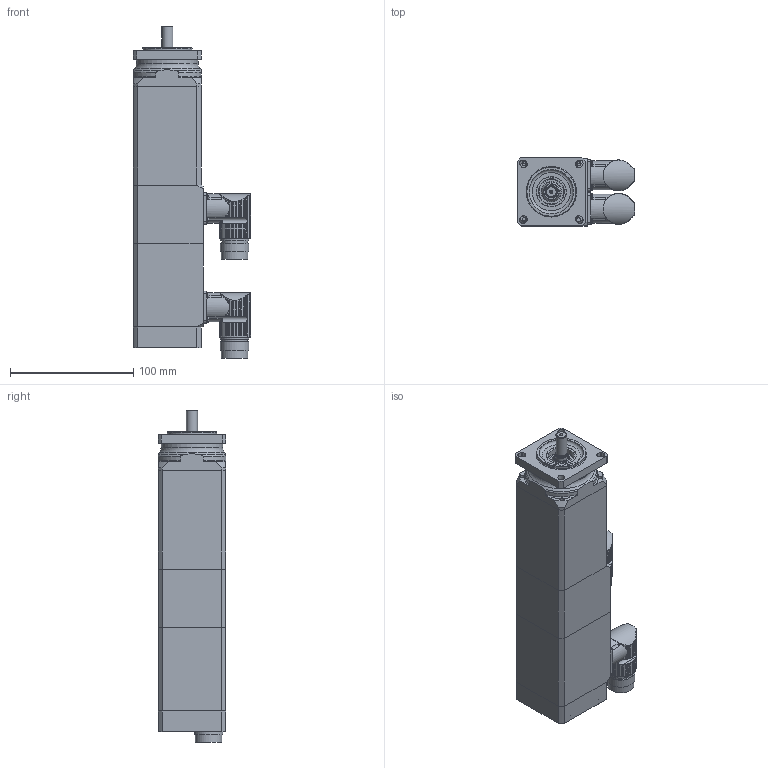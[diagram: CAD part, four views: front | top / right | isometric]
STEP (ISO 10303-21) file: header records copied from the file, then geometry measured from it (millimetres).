
FILE_DESCRIPTION(/* description */ (''),/* implementation_level */ '2;1');
FILE_NAME(/* name */ 'KSY 168 D-MD-Rx',/* time_stamp */ '2006-12-08T14:32:59+01:00',/* author */ (''),/* organization */ (''),/* preprocessor_version */ 'ST-DEVELOPER v8',/* originating_system */ 'UNIGRAPHICS SOLUTIONS - UNIGRAPHICS 18.0',/* authorisation */ '');
FILE_SCHEMA (('AUTOMOTIVE_DESIGN { 1 2 10303 214 0 1 1 1 }'));
Length unit declared in the file: millimetre
Products named in the file (12): Gehaeuse_SY1_80_0; din912-m3x10_A; 063326_0; 014258_0; 064270_0; 111003_2; Rotor_SY1_0; 111001_0; iso1580-m2.5x6_A; 014250_0; DIN3760_org_A10x24x7_0; KSY164D-MD-RC_0
Assembly tree (21 placements, depth 2):
  KSY164D-MD-RC_0
    DIN3760_org_A10x24x7_0
    014250_0
    iso1580-m2.5x6_A  x8
    111001_0
    Rotor_SY1_0
    111003_2
    064270_0
    014258_0
    063326_0
    din912-m3x10_A  x4
    Gehaeuse_SY1_80_0
Bounding box: 94.99 x 55 x 269.15 mm (x, y, z)
Volume: 326612.5 mm3; surface area: 160212.3 mm2
Topology: 21 solids, 21 shells, 917 faces, 2399 edges, 1562 vertices
Faces by surface type: cylinder 500, plane 266, cone 79, torus 42, sphere 25, bspline 5
Full cylindrical faces by diameter (mm): 1 x21, 1.5 x1, 1.948 x8, 2 x4, 2.135 x8, 2.459 x12, 2.5 x12, 2.7 x8, 3 x4, 3.3 x3, 3.432 x4, 3.5 x4, 4.5 x8, 5.5 x4, 6 x4, 6.5 x4, 8 x7, 8.52 x1, 9 x1, 10 x2, 10.3 x1, 10.5 x2, 12 x1, 15 x1, 18 x4, 20 x5, 21 x3, 21.5 x2, 22 x1, 23 x4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
Entity records: 24024 total; most frequent: CARTESIAN_POINT 5873, DIRECTION 3700, ORIENTED_EDGE 3394, EDGE_CURVE 1697, AXIS2_PLACEMENT_3D 1579, VERTEX_POINT 1248, EDGE_LOOP 1152, CIRCLE 791
